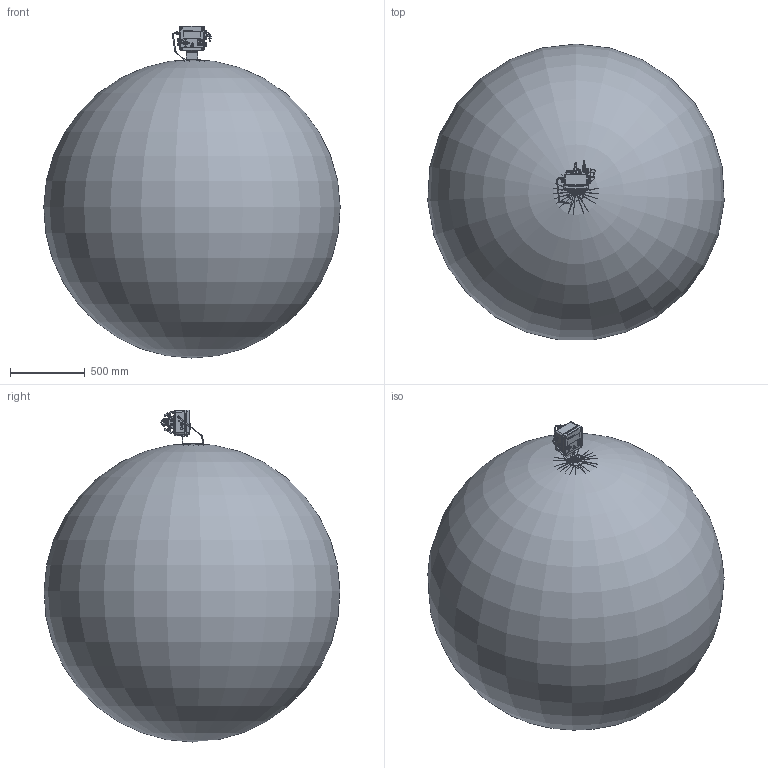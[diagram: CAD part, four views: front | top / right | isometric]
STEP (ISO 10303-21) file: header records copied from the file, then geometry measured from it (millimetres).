
FILE_DESCRIPTION(('STEP AP214'), '1');
FILE_NAME('ÑÃ-ÝÊÐ-Ò-Á DN80 ïðàâûé ñ ÏÏÄ', '', ('UNSPECIFIED'), ('UNSPECIFIED'), 'C3D Converter', 'C3D Toolkit', '');
FILE_SCHEMA(('AUTOMOTIVE_DESIGN { 1 0 10303 214 3 1 1}'));
Length unit declared in the file: millimetre
Products named in the file (1): -998
Bounding box: 1985.41 x 1982.05 x 2224.17 mm (x, y, z)
Volume: 4127953200.5 mm3; surface area: 13130910.2 mm2
Topology: 8 solids, 11 shells, 4493 faces, 11852 edges, 7652 vertices
Faces by surface type: plane 1494, extrusion 1133, cylinder 1019, cone 393, bspline 326, torus 113, sphere 15
Full cylindrical faces by diameter (mm): 2 x29, 2.5 x4, 2.791 x1, 3 x3, 3.2 x2, 3.242 x8, 3.3 x2, 4 x26, 4.134 x3, 4.3 x2, 4.5 x2, 4.917 x4, 5 x16, 5.2 x4, 5.5 x6, 6 x30, 6.2 x4, 6.3 x6, 6.6 x2, 7 x11, 8 x5, 8.1 x1, 8.5 x1, 8.77 x2, 8.917 x1, 9.264 x3, 9.4 x4, 9.8 x2, 10 x24, 10.376 x3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
Entity records: 269653 total; most frequent: CARTESIAN_POINT 133231, ORIENTED_EDGE 22309, DIRECTION 16228, EDGE_CURVE 11235, VERTEX_POINT 7634, VECTOR 5650, EDGE_LOOP 5534, B_SPLINE_CURVE_WITH_KNOTS 5357
